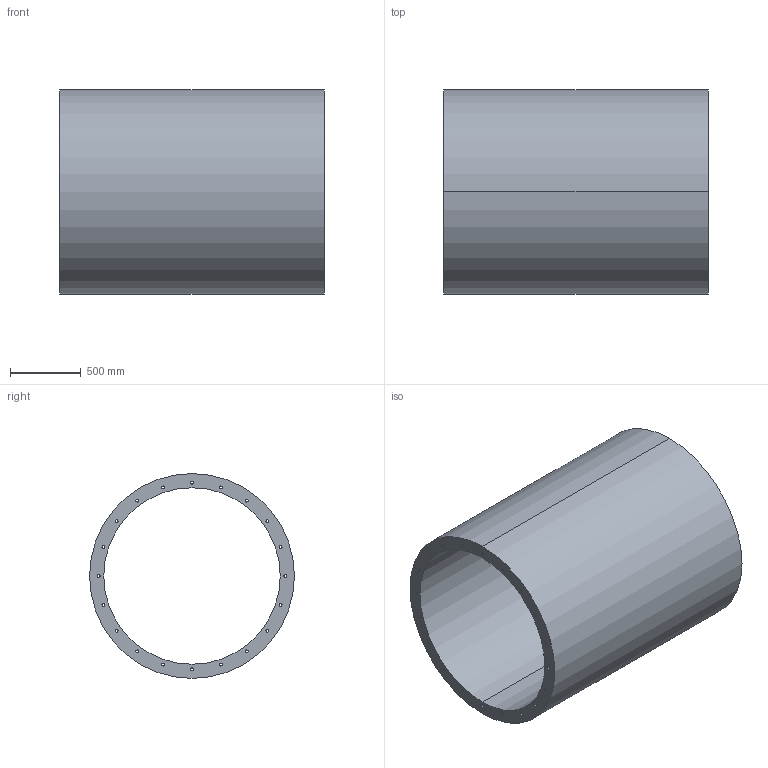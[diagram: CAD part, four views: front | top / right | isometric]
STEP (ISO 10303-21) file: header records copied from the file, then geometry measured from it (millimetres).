
FILE_DESCRIPTION(('STEP AP214'),'1');
FILE_NAME('accessory_5211813100.stp','2017-10-09T11:38:20',('TraceParts'),('TraceParts S.A.'),'Spatial InterOp 3D',' ',' ');
FILE_SCHEMA(('automotive_design'));
Length unit declared in the file: millimetre
Products named in the file (1): accessory_5211813100
Bounding box: 1875 x 1450 x 1450 mm (x, y, z)
Volume: 783434668 mm3; surface area: 19096170.9 mm2
Topology: 1 solids, 1 shells, 46 faces, 132 edges, 88 vertices
Faces by surface type: cylinder 44, plane 2
Entity records: 2032 total; most frequent: DIRECTION 314, CARTESIAN_POINT 267, ORIENTED_EDGE 264, AXIS2_PLACEMENT_3D 135, EDGE_CURVE 132, EDGE_LOOP 88, VERTEX_POINT 88, CIRCLE 88
